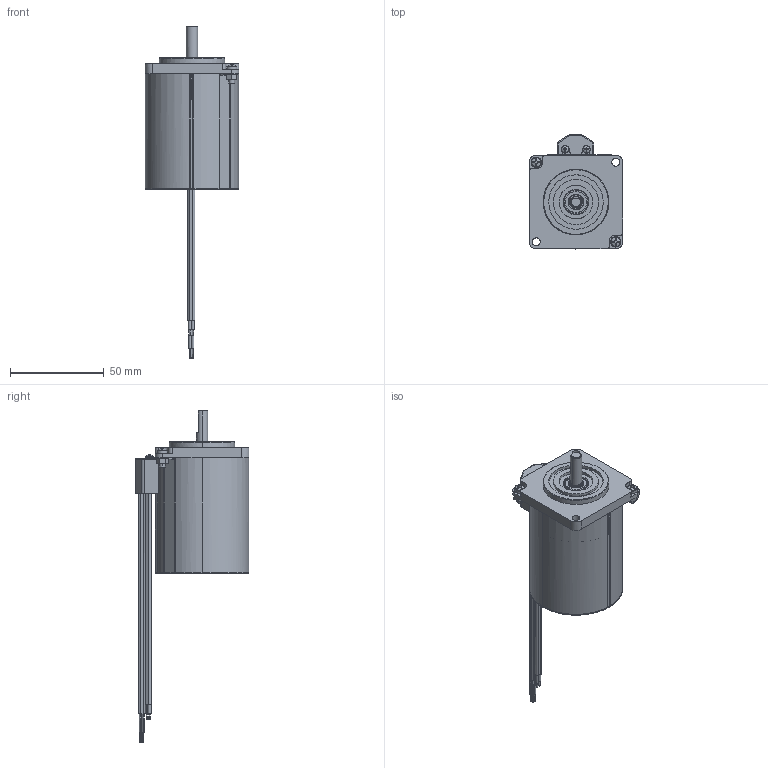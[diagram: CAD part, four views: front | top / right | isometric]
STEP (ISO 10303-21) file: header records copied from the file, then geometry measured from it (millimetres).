
FILE_DESCRIPTION (( 'STEP AP214' ), '1' );
FILE_NAME ('CPHB50(メッシュなし）外形図.STEP', '2019-06-14T04:39:03', ( '' ), ( '' ), 'SwSTEP 2.0', 'SolidWorks 2016', '' );
FILE_SCHEMA (( 'AUTOMOTIVE_DESIGN' ));
Length unit declared in the file: millimetre
Products named in the file (1): CPHB50(メッシュなし）外形図
Bounding box: 50 x 60.77 x 176.99 mm (x, y, z)
Surface area: 39257.3 mm2 (no closed solid volume)
Topology: 0 solids, 1 shells, 1445 faces, 3918 edges, 2473 vertices
Faces by surface type: cylinder 644, plane 410, cone 331, torus 38, bspline 12, sphere 10
Entity records: 73367 total; most frequent: CARTESIAN_POINT 26793, ORIENTED_EDGE 7814, DIRECTION 5882, EDGE_CURVE 3914, VERTEX_POINT 2473, AXIS2_PLACEMENT_3D 2095, VECTOR 1692, LINE 1692
